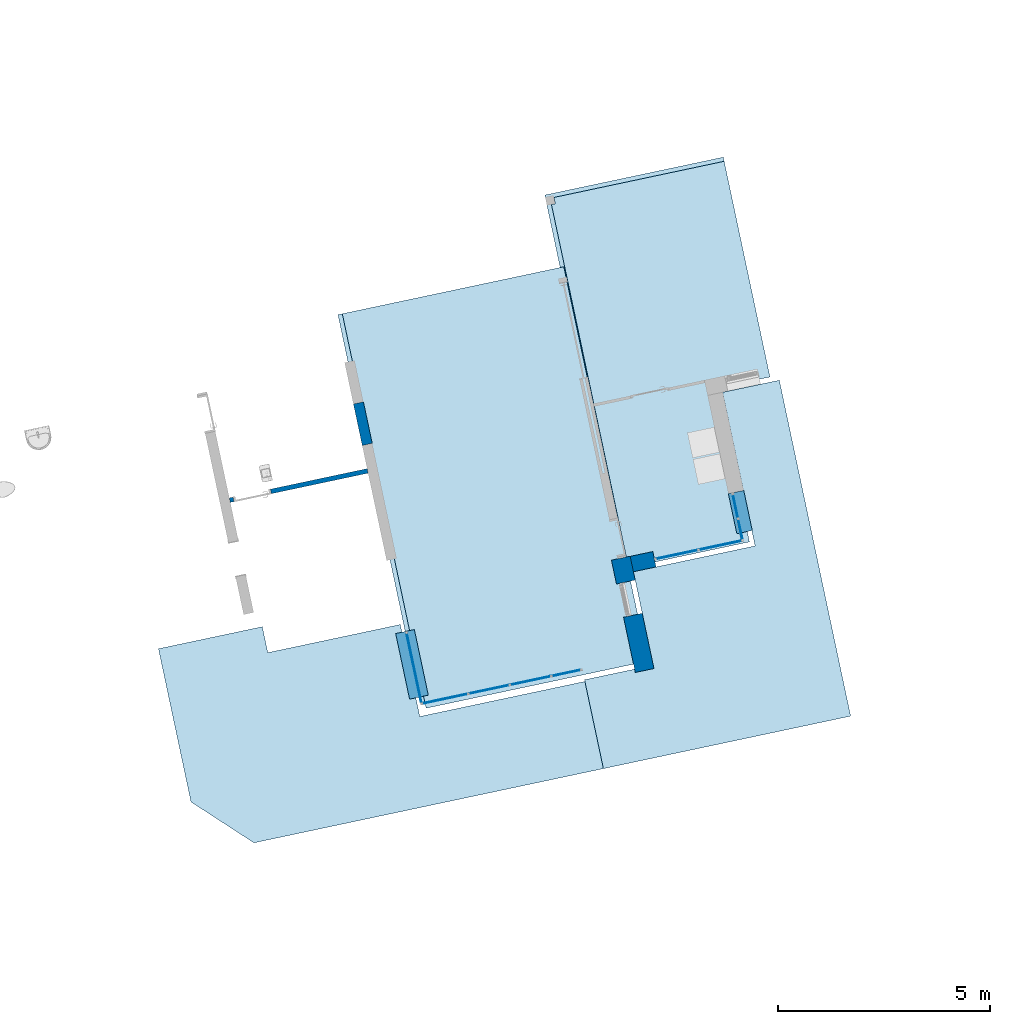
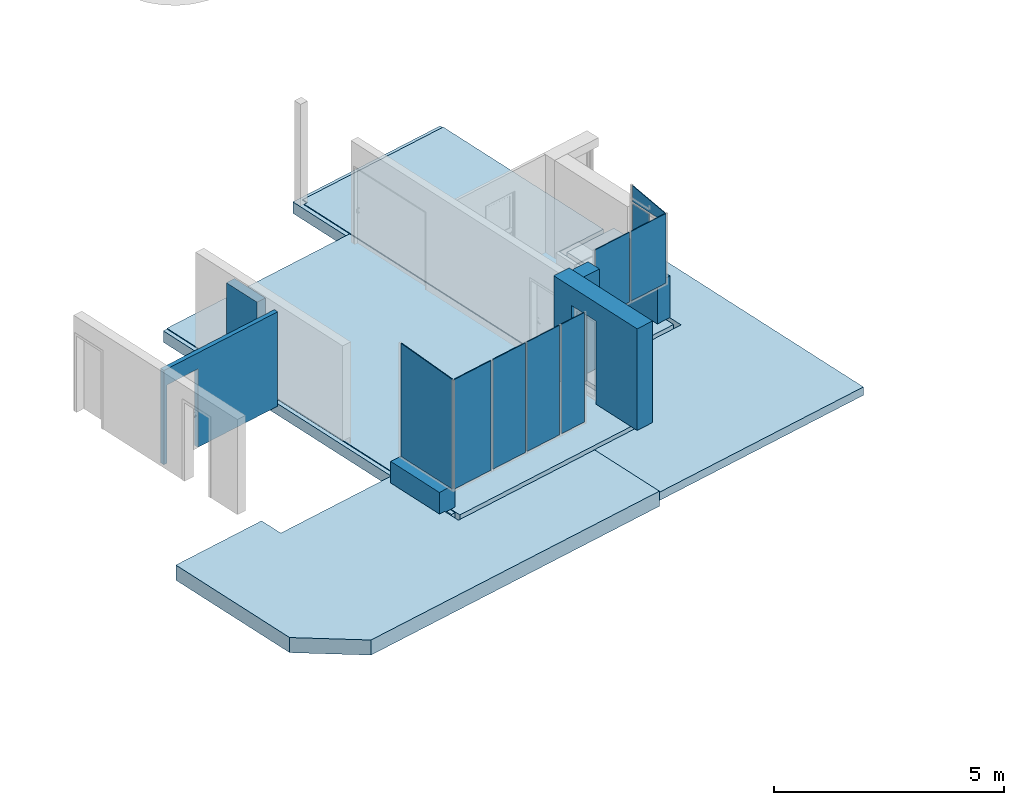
# One storey, part 2 of 17: 9 plates, 6 walls, 5 slabs, 2 openings, 4 elements without a shape of their own.
"""IFC2X3 building model written with IfcOpenShell, lengths in centimetres."""

from ifc_helpers import new_model, entity, si_unit, converted_unit, derived_unit, direction, frame, frame_2d, origin, origin_2d_with_axis, place, context, subcontext, project, spatial, polyline, rectangle, outline, extrude, faceted_brep, source, transform, mapped, material, layer, layer_set, layer_usage, type_object, type_shapes, element, aggregate, save


model = new_model("IFC2X3")

# Units and contexts
model_context = context("Model", 3, precision=0.001, world=origin(), true_north=direction((6.12303176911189e-17, 1.0)))
body_context = subcontext(model_context, "Body", "Model", "MODEL_VIEW")
ifc_project = project(units=[si_unit("LENGTHUNIT", "METRE", prefix="CENTI"), si_unit("AREAUNIT", "SQUARE_METRE"), si_unit("VOLUMEUNIT", "CUBIC_METRE"), converted_unit("PLANEANGLEUNIT", "DEGREE", entity("IfcRatioMeasure", 0.0174532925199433), si_unit("PLANEANGLEUNIT", "RADIAN"), dimensions=[0, 0, 0, 0, 0, 0, 0]), si_unit("MASSUNIT", "GRAM", prefix="KILO"), derived_unit("MASSDENSITYUNIT", [(si_unit("MASSUNIT", "GRAM", prefix="KILO"), 1), (si_unit("LENGTHUNIT", "METRE"), -3)]), derived_unit("IONCONCENTRATIONUNIT", [(si_unit("MASSUNIT", "GRAM", prefix="KILO"), 1), (si_unit("LENGTHUNIT", "METRE"), -3)]), derived_unit("MOMENTOFINERTIAUNIT", [(si_unit("LENGTHUNIT", "METRE"), 4)]), si_unit("TIMEUNIT", "SECOND"), si_unit("FREQUENCYUNIT", "HERTZ"), si_unit("THERMODYNAMICTEMPERATUREUNIT", "DEGREE_CELSIUS"), derived_unit("THERMALTRANSMITTANCEUNIT", [(si_unit("MASSUNIT", "GRAM", prefix="KILO"), 1), (si_unit("THERMODYNAMICTEMPERATUREUNIT", "KELVIN"), -1), (si_unit("TIMEUNIT", "SECOND"), -3)]), derived_unit("THERMALCONDUCTANCEUNIT", [(si_unit("MASSUNIT", "GRAM", prefix="KILO"), 1), (si_unit("THERMODYNAMICTEMPERATUREUNIT", "KELVIN"), -1), (si_unit("TIMEUNIT", "SECOND"), -3), (si_unit("LENGTHUNIT", "METRE"), 1)]), derived_unit("VOLUMETRICFLOWRATEUNIT", [(si_unit("LENGTHUNIT", "METRE"), 3), (si_unit("TIMEUNIT", "SECOND"), -1)]), derived_unit("MASSFLOWRATEUNIT", [(si_unit("MASSUNIT", "GRAM", prefix="KILO"), 1), (si_unit("TIMEUNIT", "SECOND"), -1)]), derived_unit("ROTATIONALFREQUENCYUNIT", [(si_unit("TIMEUNIT", "SECOND"), -1)]), si_unit("ELECTRICCURRENTUNIT", "AMPERE"), si_unit("ELECTRICVOLTAGEUNIT", "VOLT"), si_unit("POWERUNIT", "WATT"), si_unit("FORCEUNIT", "NEWTON", prefix="KILO"), si_unit("ILLUMINANCEUNIT", "LUX"), si_unit("LUMINOUSFLUXUNIT", "LUMEN"), si_unit("LUMINOUSINTENSITYUNIT", "CANDELA"), derived_unit("USERDEFINED", [(si_unit("MASSUNIT", "GRAM", prefix="KILO"), -1), (si_unit("LENGTHUNIT", "METRE"), -2), (si_unit("TIMEUNIT", "SECOND"), 3), (si_unit("LUMINOUSFLUXUNIT", "LUMEN"), 1)]), derived_unit("USERDEFINED", [(si_unit("MASSUNIT", "GRAM", prefix="KILO"), 1), (si_unit("TIMEUNIT", "SECOND"), -3), (si_unit("LENGTHUNIT", "METRE"), 3), (si_unit("ELECTRICCURRENTUNIT", "AMPERE"), -2)]), derived_unit("SOUNDPOWERUNIT", [(si_unit("MASSUNIT", "GRAM", prefix="KILO"), 1), (si_unit("TIMEUNIT", "SECOND"), -3), (si_unit("LENGTHUNIT", "METRE"), 2)]), derived_unit("SOUNDPRESSUREUNIT", [(si_unit("MASSUNIT", "GRAM", prefix="KILO"), 1), (si_unit("LENGTHUNIT", "METRE"), -1), (si_unit("TIMEUNIT", "SECOND"), -2)]), derived_unit("LINEARVELOCITYUNIT", [(si_unit("LENGTHUNIT", "METRE"), 1), (si_unit("TIMEUNIT", "SECOND"), -1)]), si_unit("PRESSUREUNIT", "PASCAL"), derived_unit("USERDEFINED", [(si_unit("MASSUNIT", "GRAM", prefix="KILO"), 1), (si_unit("LENGTHUNIT", "METRE"), -2), (si_unit("TIMEUNIT", "SECOND"), -2)]), derived_unit("LINEARFORCEUNIT", [(si_unit("MASSUNIT", "GRAM", prefix="KILO"), 1), (si_unit("TIMEUNIT", "SECOND"), -2)]), derived_unit("PLANARFORCEUNIT", [(si_unit("MASSUNIT", "GRAM", prefix="KILO"), 1), (si_unit("LENGTHUNIT", "METRE"), -1), (si_unit("TIMEUNIT", "SECOND"), -2)]), derived_unit("SPECIFICHEATCAPACITYUNIT", [(si_unit("THERMODYNAMICTEMPERATUREUNIT", "KELVIN"), -1), (si_unit("LENGTHUNIT", "METRE"), 2), (si_unit("TIMEUNIT", "SECOND"), -2)]), derived_unit("HEATINGVALUEUNIT", [(si_unit("LENGTHUNIT", "METRE"), 2), (si_unit("TIMEUNIT", "SECOND"), -2)]), derived_unit("VAPORPERMEABILITYUNIT", [(si_unit("LENGTHUNIT", "METRE"), -1), (si_unit("TIMEUNIT", "SECOND"), 1)]), derived_unit("DYNAMICVISCOSITYUNIT", [(si_unit("MASSUNIT", "GRAM", prefix="KILO"), 1), (si_unit("TIMEUNIT", "SECOND"), -1), (si_unit("LENGTHUNIT", "METRE"), -1)]), derived_unit("THERMALEXPANSIONCOEFFICIENTUNIT", [(si_unit("THERMODYNAMICTEMPERATUREUNIT", "KELVIN"), -1)]), derived_unit("MODULUSOFELASTICITYUNIT", [(si_unit("MASSUNIT", "GRAM", prefix="KILO"), 1), (si_unit("LENGTHUNIT", "METRE"), -1), (si_unit("TIMEUNIT", "SECOND"), -2)]), derived_unit("ISOTHERMALMOISTURECAPACITYUNIT", [(si_unit("LENGTHUNIT", "METRE"), 3), (si_unit("MASSUNIT", "GRAM", prefix="KILO"), -1)]), derived_unit("MOISTUREDIFFUSIVITYUNIT", [(si_unit("TIMEUNIT", "SECOND"), -1), (si_unit("LENGTHUNIT", "METRE"), 2)])], contexts=[model_context])

# Site, building, storey
site_placement = place(None, frame((14083.8920177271, -6853.25409548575, 6900.0), z_axis=(0.0, 0.0, 1.0), x_axis=(0.978188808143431, 0.207717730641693, 0.0)))
site = spatial("IfcSite", under=ifc_project, at=site_placement, Name="Surface", CompositionType="ELEMENT")
building_placement = place(site_placement, origin())
building = spatial("IfcBuilding", under=site, at=building_placement, CompositionType="ELEMENT")
storey_placement = place(building_placement, origin())
storey = spatial("IfcBuildingStorey", under=building, at=storey_placement, Name="_Rez de chaussée Séjour", CompositionType="ELEMENT", Elevation=2.07727662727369e-10)

# Slabs
ifc_material_1 = material(Name="Dalle, carrelage 15 x 15")
ifc_layer_1 = layer(ifc_material_1, 2.0)
ifc_material_2 = material(Name="__ ISOLANT (sous dalle)")
ifc_layer_2 = layer(ifc_material_2, 8.0)
ifc_material_3 = material(Name="<Unnamed>")
ifc_layer_3 = layer(ifc_material_3, 2.0)
ifc_material_4 = material(Name="Béton, précoulé")
ifc_layer_4 = layer(ifc_material_4, 20.0)
ifc_layer_set_1 = layer_set([ifc_layer_1, ifc_layer_2, ifc_layer_3, ifc_layer_4], Name="Sol:*BETON 32 (20 + Revêtement sur chape)")
ifc_layer_usage_1 = layer_usage(ifc_layer_set_1, "AXIS3", "POSITIVE", 0.0)
slab_type_1 = type_object("IfcSlabType", Name="Sol:*BETON 32 (20 + Revêtement sur chape)", PredefinedType="FLOOR", material=ifc_layer_set_1)
slab_1_placement = place(storey_placement, frame((-6789.4551432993, 14577.6324526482, -32.0)))
element("IfcSlab", 1, at=slab_1_placement, inside=storey, type_object=slab_type_1, material=ifc_layer_usage_1, Name="Sol:*BETON 32 (20 + Revêtement sur chape)", ObjectType="Sol:*BETON 32 (20 + Revêtement sur chape)", PredefinedType="FLOOR", context=body_context, shape_type="SweptSolid", body=[
    extrude(outline(polyline([(-477.320962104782, 557.267446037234), (-477.32096210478, 37.7674460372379), (-349.32096210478, 37.7674460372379), (-349.320962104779, -332.232553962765), (-58.1209621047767, -332.232553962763), (-58.1209621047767, 542.267446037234), (-67.3209621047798, 542.267446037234), (-67.3209621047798, 557.267446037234), (-477.320962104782, 557.267446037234)])), frame((477.320962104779, 557.267446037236, 32.0), z_axis=(0.0, 0.0, -1.0), x_axis=(-1.0, 0.0, 0.0)), (0.0, 0.0, 1.0), 32.0),
])
slab_2_placement = place(storey_placement, frame((-6789.4551432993, 14577.6324526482, -32.0)))
element("IfcSlab", 2, at=slab_2_placement, inside=storey, type_object=slab_type_1, material=ifc_layer_usage_1, Name="Sol:*BETON 32 (20 + Revêtement sur chape):2", ObjectType="Sol:*BETON 32 (20 + Revêtement sur chape)", PredefinedType="FLOOR", context=body_context, shape_type="SweptSolid", body=[
    extrude(rectangle(XDim=950.000000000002, YDim=533.441924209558, at=frame_2d((210.6, -82.2674460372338), x_axis=(0.0, -1.0))), frame((477.320962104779, 557.267446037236, 32.0), z_axis=(0.0, 0.0, -1.0), x_axis=(-1.0, 0.0, 0.0)), (0.0, 0.0, 1.0), 32.0),
])
ifc_material_5 = material(Name="__ BOIS TERRASSE")
ifc_layer_5 = layer(ifc_material_5, 5.0)
ifc_material_6 = material(Name="__ SITE_pavés béton")
ifc_layer_6 = layer(ifc_material_6, 35.0)
ifc_layer_set_2 = layer_set([ifc_layer_5, ifc_layer_6], Name="Sol:Béton + Lames bois")
ifc_layer_usage_2 = layer_usage(ifc_layer_set_2, "AXIS3", "POSITIVE", 0.0)
slab_type_2 = type_object("IfcSlabType", Name="Sol:Béton + Lames bois", PredefinedType="FLOOR", material=ifc_layer_set_2)
slab_3_placement = place(storey_placement, origin())
element("IfcSlab", 3, at=slab_3_placement, inside=storey, type_object=slab_type_2, material=ifc_layer_usage_2, Name="Sol:Béton + Lames bois", ObjectType="Sol:Béton + Lames bois", PredefinedType="FLOOR", context=body_context, shape_type="SweptSolid", body=[
    extrude(outline(polyline([(-410.801404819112, -227.803556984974), (-160.65926919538, -227.803556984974), (-160.65926919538, -165.303556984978), (158.340730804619, -165.303556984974), (158.340730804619, 56.2364682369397), (555.982655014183, 56.2364682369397), (555.982655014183, 266.272424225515), (-285.725423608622, 266.272424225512), (-410.801404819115, 141.19644301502), (-410.801404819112, -227.803556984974)])), frame((-6966.29587410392, 14617.8689208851, 3.0), z_axis=(0.0, 0.0, -1.0), x_axis=(1.0, 0.0, 0.0)), (0.0, 0.0, 1.0), 40.0),
])

# Curtain wall, plates
curtain_wall_type = type_object("IfcCurtainWallType", Name="Mur-rideau:*Mur-rideau", PredefinedType="NOTDEFINED")
curtain_wall_1_placement = place(storey_placement, origin())
curtain_wall_1 = element("IfcCurtainWall", 4, at=curtain_wall_1_placement, inside=storey, type_object=curtain_wall_type, Name="Mur-rideau:*Mur-rideau", ObjectType="Mur-rideau:*Mur-rideau")
ifc_material_7 = material(Name="Fenêtre - Vitrage")
plate_type_1 = type_object("IfcPlateType", Name="Panneau système:*Vitré (centré)", PredefinedType="CURTAIN_PANEL", material=ifc_material_7)
shared_shape_1 = source(origin(), body_context, "Body", "SweptSolid", [
    extrude(rectangle(XDim=2.0, YDim=107.500000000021, at=origin_2d_with_axis()), frame((0.0, 0.0, 0.0), z_axis=(0.0, 0.0, 1.0), x_axis=(0.0, 1.0, 0.0)), (0.0, 0.0, 1.0), 290.141211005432),
])
type_shapes(plate_type_1, [shared_shape_1])
plate_1_placement = place(curtain_wall_1_placement, frame((-6741.20514329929, 14590.1324526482, 65.0)))
plate_1 = element("IfcPlate", 5, at=plate_1_placement, type_object=plate_type_1, material=ifc_material_7, Name="Panneau système:*Vitré (centré)", ObjectType="Panneau système:*Vitré (centré)", context=body_context, shape_type="MappedRepresentation", body=[
    mapped(shared_shape_1, transform((0.0, 0.0, 0.0), scale=1.0)),
])
plate_type_2 = type_object("IfcPlateType", Name="Panneau système:*Vitré (centré)", PredefinedType="CURTAIN_PANEL", material=ifc_material_7)
shared_shape_2 = source(origin(), body_context, "Body", "SweptSolid", [
    extrude(rectangle(XDim=2.0, YDim=94.9999999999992, at=origin_2d_with_axis()), frame((0.0, 0.0, 0.0), z_axis=(0.0, 0.0, 1.0), x_axis=(0.0, 1.0, 0.0)), (0.0, 0.0, 1.0), 290.141211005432),
])
type_shapes(plate_type_2, [shared_shape_2])
plate_2_placement = place(curtain_wall_1_placement, frame((-6634.95514329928, 14590.1324526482, 65.0)))
plate_2 = element("IfcPlate", 6, at=plate_2_placement, type_object=plate_type_2, material=ifc_material_7, Name="Panneau système:*Vitré (centré)", ObjectType="Panneau système:*Vitré (centré)", context=body_context, shape_type="MappedRepresentation", body=[
    mapped(shared_shape_2, transform((0.0, 0.0, 0.0), scale=1.0)),
])
plate_3_placement = place(curtain_wall_1_placement, frame((-6534.95514329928, 14590.1324526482, 65.0)))
plate_3 = element("IfcPlate", 7, at=plate_3_placement, type_object=plate_type_2, material=ifc_material_7, Name="Panneau système:*Vitré (centré)", ObjectType="Panneau système:*Vitré (centré)", context=body_context, shape_type="MappedRepresentation", body=[
    mapped(shared_shape_2, transform((0.0, 0.0, 0.0), scale=1.0)),
])
plate_type_3 = type_object("IfcPlateType", Name="Panneau système:*Vitré (centré)", PredefinedType="CURTAIN_PANEL", material=ifc_material_7)
shared_shape_3 = source(origin(), body_context, "Body", "SweptSolid", [
    extrude(rectangle(XDim=2.0, YDim=67.1419242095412, at=origin_2d_with_axis()), frame((0.0, 0.0, 0.0), z_axis=(0.0, 0.0, 1.0), x_axis=(0.0, 1.0, 0.0)), (0.0, 0.0, 1.0), 290.141211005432),
])
type_shapes(plate_type_3, [shared_shape_3])
plate_4_placement = place(curtain_wall_1_placement, frame((-6448.88418119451, 14590.1324526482, 65.0)))
plate_4 = element("IfcPlate", 8, at=plate_4_placement, type_object=plate_type_3, material=ifc_material_7, Name="Panneau système:*Vitré (centré)", ObjectType="Panneau système:*Vitré (centré)", context=body_context, shape_type="MappedRepresentation", body=[
    mapped(shared_shape_3, transform((0.0, 0.0, 0.0), scale=1.0)),
])
aggregate(curtain_wall_1, [plate_1, plate_2, plate_3, plate_4])

# Slab
ifc_layer_7 = layer(ifc_material_5, 2.0)
ifc_material_8 = material(Name="__ BOIS (charpente)")
ifc_layer_8 = layer(ifc_material_8, 20.0)
ifc_layer_set_3 = layer_set([ifc_layer_7, ifc_layer_8], Name="Sol:// Terrasse__ Lames bois 22")
ifc_layer_usage_3 = layer_usage(ifc_layer_set_3, "AXIS3", "POSITIVE", 0.0)
slab_type_3 = type_object("IfcSlabType", Name="Sol:// Terrasse__ Lames bois 22", PredefinedType="FLOOR", material=ifc_layer_set_3)
slab_4_placement = place(storey_placement, origin())
element("IfcSlab", 9, at=slab_4_placement, inside=storey, type_object=slab_type_3, material=ifc_layer_usage_3, Name="Sol:// Terrasse__ Lames bois 22", ObjectType="Sol:// Terrasse__ Lames bois 22", PredefinedType="FLOOR", context=body_context, shape_type="SweptSolid", body=[
    extrude(outline(polyline([(-365.544413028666, -304.874999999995), (-151.508457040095, -304.874999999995), (-151.508457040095, -139.375000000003), (73.5264350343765, -139.375000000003), (73.5264350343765, 153.625000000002), (443.526435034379, 153.625000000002), (443.526435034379, 290.625000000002), (-365.544413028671, 290.625000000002), (-365.544413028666, -304.874999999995)])), frame((-6105.43821908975, 14717.1409096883, 0.0), z_axis=(0.0, 0.0, -1.0), x_axis=(0.0, 1.0, 0.0)), (0.0, 0.0, 1.0), 22.0),
])

# Curtain wall, plates
curtain_wall_2_placement = place(storey_placement, origin())
curtain_wall_2 = element("IfcCurtainWall", 10, at=curtain_wall_2_placement, inside=storey, type_object=curtain_wall_type, Name="Mur-rideau:*Mur-rideau", ObjectType="Mur-rideau:*Mur-rideau")
plate_type_4 = type_object("IfcPlateType", Name="Panneau système:*Vitré (centré)", PredefinedType="CURTAIN_PANEL", material=ifc_material_7)
shared_shape_4 = source(origin(), body_context, "Body", "SweptSolid", [
    extrude(rectangle(XDim=2.0, YDim=98.5000000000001, at=origin_2d_with_axis()), frame((0.0, 0.0, 0.0), z_axis=(0.0, 0.0, 1.0), x_axis=(0.0, 1.0, 0.0)), (0.0, 0.0, 1.0), 184.508935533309),
])
type_shapes(plate_type_4, [shared_shape_4])
plate_5_placement = place(curtain_wall_2_placement, frame((-6136.06321908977, 14809.1673447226, 115.0)))
plate_5 = element("IfcPlate", 11, at=plate_5_placement, type_object=plate_type_4, material=ifc_material_7, Name="Panneau système:*Vitré (centré)", ObjectType="Panneau système:*Vitré (centré)", context=body_context, shape_type="MappedRepresentation", body=[
    mapped(shared_shape_4, transform((0.0, 0.0, 0.0), scale=1.0)),
])
plate_type_5 = type_object("IfcPlateType", Name="Panneau système:*Vitré (centré)", PredefinedType="CURTAIN_PANEL", material=ifc_material_7)
shared_shape_5 = source(origin(), body_context, "Body", "SweptSolid", [
    extrude(rectangle(XDim=2.0, YDim=101.000000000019, at=origin_2d_with_axis()), frame((0.0, 0.0, 0.0), z_axis=(0.0, 0.0, 1.0), x_axis=(0.0, 1.0, 0.0)), (0.0, 0.0, 1.0), 184.508935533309),
])
type_shapes(plate_type_5, [shared_shape_5])
plate_6_placement = place(curtain_wall_2_placement, frame((-6031.31321908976, 14809.1673447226, 115.0)))
plate_6 = element("IfcPlate", 12, at=plate_6_placement, type_object=plate_type_5, material=ifc_material_7, Name="Panneau système:*Vitré (centré)", ObjectType="Panneau système:*Vitré (centré)", context=body_context, shape_type="MappedRepresentation", body=[
    mapped(shared_shape_5, transform((0.0, 0.0, 0.0), scale=1.0)),
])
aggregate(curtain_wall_2, [plate_5, plate_6])

curtain_wall_3_placement = place(storey_placement, origin())
curtain_wall_3 = element("IfcCurtainWall", 13, at=curtain_wall_3_placement, inside=storey, type_object=curtain_wall_type, Name="Mur-rideau:*Mur-rideau", ObjectType="Mur-rideau:*Mur-rideau")
plate_type_6 = type_object("IfcPlateType", Name="Panneau système:*Vitré (centré)", PredefinedType="CURTAIN_PANEL", material=ifc_material_7)
shared_shape_6 = source(origin(), body_context, "Body", "SweptSolid", [
    extrude(rectangle(XDim=2.0, YDim=54.8931240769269, at=origin_2d_with_axis()), frame((0.0, 0.0, 0.0), z_axis=(0.0, 0.0, 1.0), x_axis=(0.0, 1.0, 0.0)), (0.0, 0.0, 1.0), 152.5),
])
type_shapes(plate_type_6, [shared_shape_6])
plate_7_placement = place(curtain_wall_3_placement, frame((-5977.81321908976, 14891.6139067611, 115.0), z_axis=(0.0, 0.0, 1.0), x_axis=(0.0, 1.0, 0.0)))
plate_7 = element("IfcPlate", 14, at=plate_7_placement, type_object=plate_type_6, material=ifc_material_7, Name="Panneau système:*Vitré (centré)", ObjectType="Panneau système:*Vitré (centré)", context=body_context, shape_type="MappedRepresentation", body=[
    mapped(shared_shape_6, transform((0.0, 0.0, 0.0), scale=1.0)),
])
plate_type_7 = type_object("IfcPlateType", Name="Panneau système:*Vitré (centré)", PredefinedType="CURTAIN_PANEL", material=ifc_material_7)
shared_shape_7 = source(origin(), body_context, "Body", "SweptSolid", [
    extrude(outline(polyline([(-16.6452568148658, -52.4643746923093), (7.7449286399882, -52.4643746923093), (16.2271875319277, -2.46437469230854), (25.9636542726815, 54.9287493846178), (-16.6452568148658, 54.9287493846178), (-16.6452568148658, -2.46437469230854), (-16.6452568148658, -52.4643746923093)])), frame((-1.23218734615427, -1.0, 16.6452568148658), z_axis=(0.0, 1.0, 0.0), x_axis=(0.0, 0.0, 1.0)), (0.0, 0.0, 1.0), 2.0),
])
type_shapes(plate_type_7, [shared_shape_7])
plate_8_placement = place(curtain_wall_3_placement, frame((-5977.81321908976, 14865.3639067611, 272.5), z_axis=(0.0, 0.0, 1.0), x_axis=(0.0, 1.0, 0.0)))
plate_8 = element("IfcPlate", 15, at=plate_8_placement, type_object=plate_type_7, material=ifc_material_7, Name="Panneau système:*Vitré (centré)", ObjectType="Panneau système:*Vitré (centré)", context=body_context, shape_type="MappedRepresentation", body=[
    mapped(shared_shape_7, transform((0.0, 0.0, 0.0), scale=1.0)),
])
aggregate(curtain_wall_3, [plate_7, plate_8])

# Curtain wall, plate
curtain_wall_4_placement = place(storey_placement, origin())
curtain_wall_4 = element("IfcCurtainWall", 16, at=curtain_wall_4_placement, inside=storey, type_object=curtain_wall_type, Name="Mur-rideau:*Mur-rideau", ObjectType="Mur-rideau:*Mur-rideau")
plate_type_8 = type_object("IfcPlateType", Name="Panneau système:*Vitré (centré)", PredefinedType="CURTAIN_PANEL", material=ifc_material_7)
shared_shape_8 = source(origin(), body_context, "Body", "SweptSolid", [
    extrude(outline(polyline([(-147.492374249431, -83.2499999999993), (152.19470073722, -83.2499999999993), (142.790047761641, 83.2499999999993), (-147.492374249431, 83.2499999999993), (-147.492374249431, -83.2499999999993)])), frame((0.0, -1.0, 147.492374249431), z_axis=(0.0, 1.0, 0.0), x_axis=(0.0, 0.0, 1.0)), (0.0, 0.0, 1.0), 2.0),
])
type_shapes(plate_type_8, [shared_shape_8])
plate_9_placement = place(curtain_wall_4_placement, frame((-6797.4551432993, 14675.8824526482, 65.0), z_axis=(0.0, 0.0, 1.0), x_axis=(0.0, -1.0, 0.0)))
plate_9 = element("IfcPlate", 17, at=plate_9_placement, type_object=plate_type_8, material=ifc_material_7, Name="Panneau système:*Vitré (centré)", ObjectType="Panneau système:*Vitré (centré)", context=body_context, shape_type="MappedRepresentation", body=[
    mapped(shared_shape_8, transform((0.0, 0.0, 0.0), scale=1.0)),
])
aggregate(curtain_wall_4, [plate_9])

# Slab
ifc_layer_9 = layer(ifc_material_3, 30.0)
ifc_layer_set_4 = layer_set([ifc_layer_9], Name="Terre-plein:Terre-plein Béton - 300 mm")
ifc_layer_usage_4 = layer_usage(ifc_layer_set_4, "AXIS3", "POSITIVE", 0.0)
slab_type_4 = type_object("IfcSlabType", Name="Terre-plein:Terre-plein Béton - 300 mm", PredefinedType="FLOOR", material=ifc_layer_set_4)
slab_5_placement = place(storey_placement, origin())
element("IfcSlab", 18, at=slab_5_placement, inside=storey, type_object=slab_type_4, material=ifc_layer_usage_4, Name="Terre-plein:Terre-plein Béton - 300 mm", ObjectType="Terre-plein:Terre-plein Béton - 300 mm", PredefinedType="FLOOR", context=body_context, shape_type="SweptSolid", body=[
    extrude(outline(polyline([(-540.013956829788, 37.5716151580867), (-540.013956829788, -392.428384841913), (-17.0139568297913, -392.428384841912), (-17.0139568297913, -257.928384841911), (352.98604317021, -257.92838484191), (352.98604317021, 40.0716151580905), (569.520935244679, 40.0716151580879), (569.520935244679, 572.713539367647), (-365.479064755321, 572.713539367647), (-365.47906475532, 37.5716151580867), (-540.013956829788, 37.5716151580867)])), frame((-6227.24160393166, 15162.1533878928, -32.0), z_axis=(0.0, 0.0, -1.0), x_axis=(0.0, -1.0, 0.0)), (0.0, 0.0, -1.0), 30.0),
])

# Walls
ifc_material_9 = material(Name="__ ENDUIT_Blanc")
ifc_layer_10 = layer(ifc_material_9, 2.0)
ifc_material_10 = material(Name="__ BETON_parpaings")
ifc_layer_11 = layer(ifc_material_10, 20.0)
ifc_material_11 = material(Name="__ ISOLANT (pat 1)")
ifc_layer_12 = layer(ifc_material_11, 13.0)
ifc_layer_13 = layer(ifc_material_9, 2.0)
ifc_layer_set_5 = layer_set([ifc_layer_10, ifc_layer_11, ifc_layer_12, ifc_layer_13], Name="Mur de base:*BRIQUE 37 (20 +INT 13+2 + EXT 2) (Iso+BA13)(enduit)")
ifc_layer_usage_5 = layer_usage(ifc_layer_set_5, "AXIS2", "POSITIVE", -18.5)
wall_type_1 = type_object("IfcWallType", Name="Mur de base:*BRIQUE 37 (20 +INT 13+2 + EXT 2) (Iso+BA13)(enduit)", PredefinedType="STANDARD", material=ifc_layer_set_5)
wall_1_placement = place(storey_placement, frame((-6244.81321908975, 14809.1673447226, 0.0)))
element("IfcWallStandardCase", 19, at=wall_1_placement, inside=storey, type_object=wall_type_1, material=ifc_layer_usage_5, Name="Mur de base:*BRIQUE 37 (20 +INT 13+2 + EXT 2) (Iso+BA13)(enduit)", ObjectType="Mur de base:*BRIQUE 37 (20 +INT 13+2 + EXT 2) (Iso+BA13)(enduit)", context=body_context, shape_type="SweptSolid", body=[
    extrude(rectangle(XDim=54.4999999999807, YDim=36.9999999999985, at=frame_2d((27.2499999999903, 0.0), x_axis=(-1.0, 0.0))), origin(), (0.0, 0.0, 1.0), 259.999999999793),
])
ifc_layer_usage_6 = layer_usage(ifc_layer_set_5, "AXIS2", "NEGATIVE", 18.5)
wall_2_placement = place(storey_placement, frame((-5969.31321908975, 14827.6673447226, 0.0), z_axis=(0.0, 0.0, 1.0), x_axis=(0.0, 1.0, 0.0)))
element("IfcWallStandardCase", 20, at=wall_2_placement, inside=storey, type_object=wall_type_1, material=ifc_layer_usage_6, Name="Mur de base:*BRIQUE 37 (20 +INT 13+2 + EXT 2) (Iso+BA13)(enduit)", ObjectType="Mur de base:*BRIQUE 37 (20 +INT 13+2 + EXT 2) (Iso+BA13)(enduit)", context=body_context, shape_type="SweptSolid", body=[
    extrude(rectangle(XDim=96.3931240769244, YDim=37.0000000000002, at=frame_2d((48.1965620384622, 0.0), x_axis=(-1.0, 0.0))), origin(), (0.0, 0.0, 1.0), 110.0),
])
ifc_layer_14 = layer(ifc_material_9, 2.0)
ifc_layer_15 = layer(ifc_material_4, 20.0)
ifc_layer_16 = layer(ifc_material_9, 2.0)
ifc_layer_set_6 = layer_set([ifc_layer_14, ifc_layer_15, ifc_layer_16], Name="Mur de base:*BRIQUE 24 (20 + INT 2 + EXT 2) (enduit 2 faces)")
ifc_layer_usage_7 = layer_usage(ifc_layer_set_6, "AXIS2", "NEGATIVE", 12.0)
wall_type_2 = type_object("IfcWallType", Name="Mur de base:*BRIQUE 24 (20 + INT 2 + EXT 2) (enduit 2 faces)", PredefinedType="STANDARD", material=ifc_layer_set_6)
wall_3_placement = place(storey_placement, frame((-6795.9551432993, 15214.302414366, 17.0), z_axis=(0.0, 0.0, 1.0), x_axis=(0.0, 1.0, 0.0)))
element("IfcWallStandardCase", 21, at=wall_3_placement, inside=storey, type_object=wall_type_2, material=ifc_layer_usage_7, Name="Mur de base:*BRIQUE 24 (20 + INT 2 + EXT 2) (enduit 2 faces)", ObjectType="Mur de base:*BRIQUE 24 (20 + INT 2 + EXT 2) (enduit 2 faces)", context=body_context, shape_type="SweptSolid", body=[
    extrude(rectangle(XDim=99.9999999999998, YDim=23.9999999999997, at=frame_2d((-8.66862137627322e-13, -3.33333333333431), x_axis=(1.0, 0.0))), frame((50.0, -3.33333333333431, 0.0), z_axis=(0.0, 0.0, 1.0), x_axis=(-1.0, 0.0, 0.0)), (0.0, 0.0, 1.0), 223.500000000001),
])
ifc_material_12 = material(Name="__ PIERRE______________________TEST")
ifc_layer_17 = layer(ifc_material_12, 10.0)
ifc_layer_18 = layer(ifc_material_10, 20.0)
ifc_layer_19 = layer(ifc_material_11, 13.0)
ifc_layer_20 = layer(ifc_material_9, 2.0)
ifc_layer_set_7 = layer_set([ifc_layer_17, ifc_layer_18, ifc_layer_19, ifc_layer_20], Name="Mur de base:*Mur (45) maçonné isolé + parement pierre + couronnement zinc")
ifc_layer_usage_8 = layer_usage(ifc_layer_set_7, "AXIS2", "NEGATIVE", 22.5)
wall_type_3 = type_object("IfcWallType", Name="Mur de base:*Mur (45) maçonné isolé + parement pierre + couronnement zinc", PredefinedType="STANDARD", material=ifc_layer_set_7)
wall_4_placement = place(storey_placement, frame((-6800.4551432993, 14606.6324526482, 0.0), z_axis=(0.0, 0.0, 1.0), x_axis=(0.0, 1.0, 0.0)))
element("IfcWallStandardCase", 22, at=wall_4_placement, inside=storey, type_object=wall_type_3, material=ifc_layer_usage_8, Name="Mur de base:*Mur (45) maçonné isolé + parement pierre + couronnement zinc", ObjectType="Mur de base:*Mur (45) maçonné isolé + parement pierre + couronnement zinc", context=body_context, shape_type="SweptSolid", body=[
    extrude(rectangle(XDim=158.040025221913, YDim=45.0000000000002, at=frame_2d((79.0200126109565, 0.0), x_axis=(-1.0, 0.0))), origin(), (0.0, 0.0, 1.0), 60.0),
])

# Wall, opening
ifc_layer_21 = layer(ifc_material_9, 1.0)
ifc_material_13 = material(Name="__ BRIQUE______________________TEST")
ifc_layer_22 = layer(ifc_material_13, 10.0)
ifc_layer_set_8 = layer_set([ifc_layer_21, ifc_layer_22], Name="Mur de base:*BRIQUE 10 + Enduit")
ifc_layer_usage_9 = layer_usage(ifc_layer_set_8, "AXIS2", "NEGATIVE", 5.5)
wall_type_4 = type_object("IfcWallType", Name="Mur de base:*BRIQUE 10 + Enduit", PredefinedType="STANDARD", material=ifc_layer_set_8)
wall_5_placement = place(storey_placement, frame((-6807.9551432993, 15153.1673447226, 0.0), z_axis=(0.0, 0.0, 1.0), x_axis=(-1.0, 0.0, 0.0)))
wall_5 = element("IfcWallStandardCase", 23, at=wall_5_placement, inside=storey, type_object=wall_type_4, material=ifc_layer_usage_9, Name="Mur de base:*BRIQUE 10 + Enduit", ObjectType="Mur de base:*BRIQUE 10 + Enduit", context=body_context, shape_type="SweptSolid", body=[
    extrude(rectangle(XDim=332.000000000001, YDim=11.000000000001, at=frame_2d((166.0, 0.0), x_axis=(-1.0, 0.0))), origin(), (0.0, 0.0, 1.0), 250.0),
])
opening_1_placement = place(wall_5_placement, frame((233.0, -5.5, 0.0)))
element("IfcOpeningElement", 24, at=opening_1_placement, cuts=wall_5, Name="*Porte_alveolaire:Pp 83 x 204:1", ObjectType="Opening", context=body_context, shape_type="SweptSolid", body=[
    extrude(rectangle(XDim=207.5, YDim=89.9999999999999, at=frame_2d((103.75, 45.0), x_axis=(1.0, 0.0))), frame((0.0, 0.0, 0.0), z_axis=(0.0, 1.0, 0.0), x_axis=(0.0, 0.0, 1.0)), (0.0, 0.0, 1.0), 11.0),
])

ifc_layer_23 = layer(ifc_material_12, 10.0)
ifc_layer_24 = layer(ifc_material_10, 20.0)
ifc_layer_25 = layer(ifc_material_11, 13.0)
ifc_layer_26 = layer(ifc_material_9, 2.0)
ifc_layer_set_9 = layer_set([ifc_layer_23, ifc_layer_24, ifc_layer_25, ifc_layer_26], Name="Mur de base:*Mur (45) maçonné isolé + parement pierre")
ifc_layer_usage_10 = layer_usage(ifc_layer_set_9, "AXIS2", "NEGATIVE", 22.5)
wall_type_5 = type_object("IfcWallType", Name="Mur de base:*Mur (45) maçonné isolé + parement pierre", PredefinedType="STANDARD", material=ifc_layer_set_9)
wall_6_placement = place(storey_placement, frame((-6267.31321908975, 14828.1324526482, 0.0), z_axis=(0.0, 0.0, 1.0), x_axis=(0.0, -1.0, 0.0)))
wall_6 = element("IfcWallStandardCase", 25, at=wall_6_placement, inside=storey, type_object=wall_type_5, material=ifc_layer_usage_10, Name="Mur de base:*Mur (45) maçonné isolé + parement pierre", ObjectType="Mur de base:*Mur (45) maçonné isolé + parement pierre", context=body_context, shape_type="SweptSolid", body=[
    extrude(rectangle(XDim=270.500000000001, YDim=45.0000000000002, at=frame_2d((135.25, 1.58095758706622e-13), x_axis=(1.0, 0.0))), origin(), (0.0, 0.0, 1.0), 268.999999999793),
])
opening_2_placement = place(wall_6_placement, frame((137.465107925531, -22.4999999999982, -5.61495549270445), z_axis=(0.0, 0.0, 1.0), x_axis=(0.0, 1.0, 0.0)))
element("IfcOpeningElement", 26, at=opening_2_placement, cuts=wall_6, Name="Mur de base:*Mur (45) maçonné isolé + parement pierre", ObjectType="Opening", context=body_context, shape_type="Brep", body=[
    faceted_brep([(0.0, 0.0, 225.614955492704), (0.0, 80.0, 225.614955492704), (0.0, 80.0, 5.61495549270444), (0.0, 0.0, 5.61495549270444), (45.0, 0.0, 225.614955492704), (45.0, 0.0, 5.61495549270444), (45.0, 79.8999999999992, 5.61495549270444), (45.0, 80.0, 5.61495549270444), (45.0, 80.0, 225.614955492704), (13.3000000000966, 0.0, 225.614955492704), (13.3000000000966, 0.0, 225.714955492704), (13.2000000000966, 0.0, 225.714955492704), (13.2000000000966, 0.0, 225.614955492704), (14.5000000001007, 80.0, 5.61495549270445), (14.5000000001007, 79.9000000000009, 5.61495549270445), (13.2000000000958, 80.0, 225.614955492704), (13.2000000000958, 80.0, 225.714955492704), (13.3000000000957, 80.0, 225.714955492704), (13.3000000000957, 80.0, 225.614955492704), (33.2000000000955, 80.0, 225.614955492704), (33.2000000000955, 80.0, 225.714955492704), (33.3000000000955, 80.0, 225.714955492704), (33.3000000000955, 80.0, 225.614955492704), (47.5000000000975, 80.0, 5.61495549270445), (47.5000000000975, 80.0, 0.0), (16.9974883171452, 80.0, 2.11559678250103), (14.5000000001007, 80.0, 2.11559678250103), (16.9974883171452, 79.9000000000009, 2.11559678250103), (47.5000000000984, 79.9000000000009, 0.0), (47.5000000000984, 79.9000000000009, 5.61495549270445), (14.5000000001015, 79.9000000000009, 2.11559678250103), (33.2000000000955, 79.9000000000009, 225.714955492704), (33.2000000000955, 79.9000000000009, 225.614955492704), (33.3000000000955, 79.9000000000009, 225.614955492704), (33.3000000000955, 79.9000000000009, 225.714955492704)], [[[0, 1, 2, 3]], [[4, 5, 6, 7, 8]], [[0, 3, 5, 4, 9, 10, 11, 12]], [[3, 2, 13, 14, 6, 5]], [[2, 1, 15, 16, 17, 18, 19, 20, 21, 22, 8, 7, 23, 24, 25, 26, 13]], [[1, 0, 12, 15]], [[27, 28, 29, 6, 14, 30]], [[27, 30, 26, 25]], [[30, 14, 13, 26]], [[29, 23, 7, 6]], [[29, 28, 24, 23]], [[28, 27, 25, 24]], [[31, 32, 33, 34]], [[31, 34, 21, 20]], [[34, 33, 22, 21]], [[32, 31, 20, 19]], [[12, 11, 16, 15]], [[11, 10, 17, 16]], [[10, 9, 18, 17]], [[4, 8, 22, 33, 32, 19, 18, 9]]]),
])

save(model, "model.ifc")
